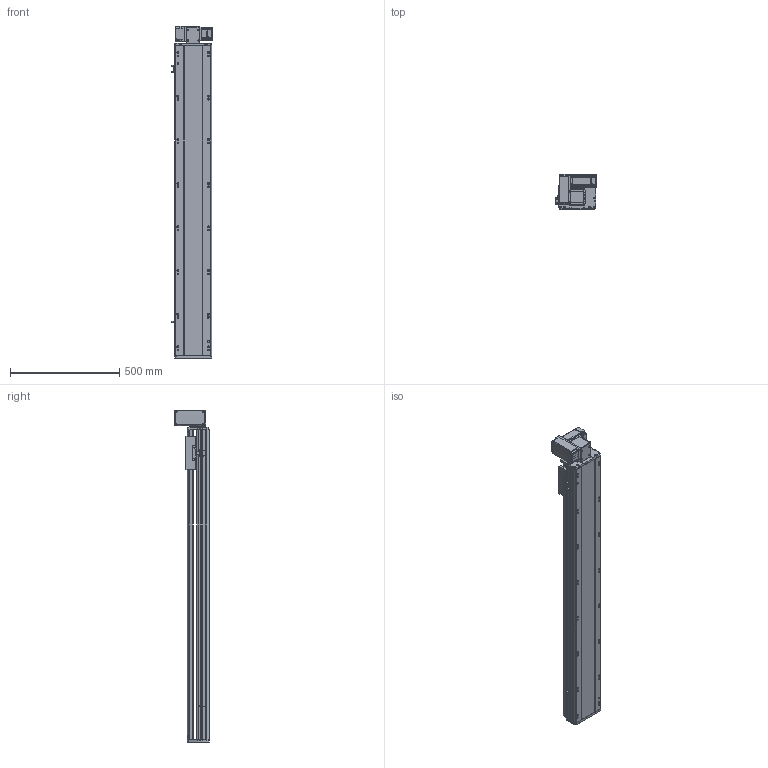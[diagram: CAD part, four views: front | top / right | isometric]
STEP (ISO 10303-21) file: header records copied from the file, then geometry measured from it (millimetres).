
FILE_DESCRIPTION (( 'STEP AP214' ), '1' );
FILE_NAME ('RTB17S-XX-1150-LW-M40-C4.STEP', '2025-12-11T07:05:13', ( '' ), ( '' ), 'SwSTEP 2.0', 'SolidWorks 2018', '' );
FILE_SCHEMA (( 'AUTOMOTIVE_DESIGN' ));
Length unit declared in the file: millimetre
Products named in the file (14): RTB17S-L-001耜醱啣^RTB17S-XX-XX-LW-M40-C4; RTB17S-L-014-T20--々湍釱^RTB17S-LW-々湍釱蚾饜-400W_RTB17S-XX-XX-LW-M40-C4; RTB17S-XX-1150-LW-M40-C4; RTB14-L-017P^RTB17S-LW-々湍釱蚾饜-400W_RTB17S-XX-XX-LW-M40-C4; RTB17S-L-004佪裝蹟譫蟀諉釱^RTB17S-XX-XX-LW-M40-C4; RTB14-L-008-M20--萇儂啣^RTB17S-LW-々湍釱蚾饜-400W_RTB17S-XX-XX-LW-M40-C4; RTB17S-LW-々湍釱蚾饜-400W^RTB17S-XX-XX-LW-M40-C4; OMRON EE-SX672 传感器^RTB17S-XX-XX-LW-M40-C4; RTH13-BL-012覜茼え俋离^RTB17S-XX-XX-LW-M40-C4; 400W侜督萇儂^RTB17S-XX-XX-LW-M40-C4; RTB14-L-005P--轴承塑胶压盖^RTB17S-LW-皮带座装配-400W_RTB17S-XX-XX-LW-M40-C4; RTB17-R-011菁釱^RTB17S-XX-XX-LW-M40-C4; RTB17S-L-007奻裔^RTB17S-XX-XX-LW-M40-C4; RTB14-L-018P^RTB17S-LW-々湍釱蚾饜-400W_RTB17S-XX-XX-LW-M40-C4
Assembly tree (16 placements, depth 3):
  RTB17S-XX-1150-LW-M40-C4
    RTB17-R-011菁釱^RTB17S-XX-XX-LW-M40-C4
    RTB17S-L-007奻裔^RTB17S-XX-XX-LW-M40-C4
    OMRON EE-SX672 传感器^RTB17S-XX-XX-LW-M40-C4  x3
    RTB17S-L-001耜醱啣^RTB17S-XX-XX-LW-M40-C4
    400W侜督萇儂^RTB17S-XX-XX-LW-M40-C4
    RTB17S-L-004佪裝蹟譫蟀諉釱^RTB17S-XX-XX-LW-M40-C4
    RTH13-BL-012覜茼え俋离^RTB17S-XX-XX-LW-M40-C4
    RTB17S-LW-々湍釱蚾饜-400W^RTB17S-XX-XX-LW-M40-C4
      RTB17S-L-014-T20--々湍釱^RTB17S-LW-々湍釱蚾饜-400W_RTB17S-XX-XX-LW-M40-C4
      RTB14-L-005P--轴承塑胶压盖^RTB17S-LW-皮带座装配-400W_RTB17S-XX-XX-LW-M40-C4
      RTB14-L-008-M20--萇儂啣^RTB17S-LW-々湍釱蚾饜-400W_RTB17S-XX-XX-LW-M40-C4
      RTB14-L-017P^RTB17S-LW-々湍釱蚾饜-400W_RTB17S-XX-XX-LW-M40-C4  x2
      RTB14-L-018P^RTB17S-LW-々湍釱蚾饜-400W_RTB17S-XX-XX-LW-M40-C4
Bounding box: 186 x 160.5 x 1522.5 mm (x, y, z)
Volume: 13597602.2 mm3; surface area: 1631458.5 mm2
Topology: 15 solids, 15 shells, 2221 faces, 6141 edges, 4005 vertices
Faces by surface type: plane 1070, cylinder 703, bspline 301, cone 139, torus 8
Entity records: 63401 total; most frequent: CARTESIAN_POINT 17746, ORIENTED_EDGE 9126, DIRECTION 8486, EDGE_CURVE 4563, VERTEX_POINT 2993, AXIS2_PLACEMENT_3D 2923, VECTOR 2640, LINE 2640
